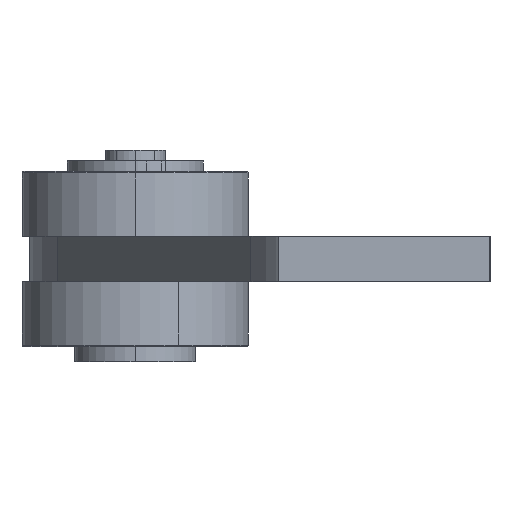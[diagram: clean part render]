
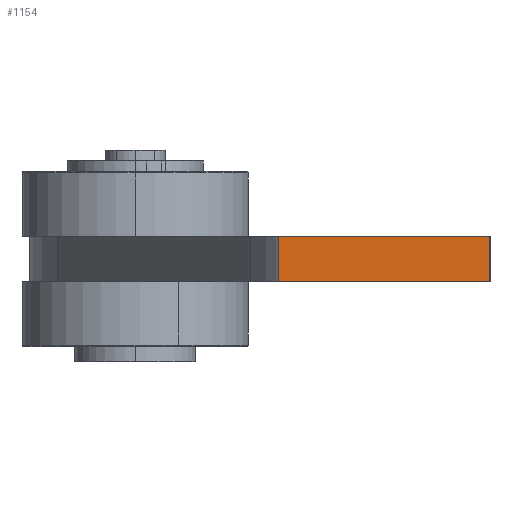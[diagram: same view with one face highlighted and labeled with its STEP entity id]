
A CAD part, left-side view. The second image highlights one B-rep face of the part: STEP entity #1154.
In plain terms, the highlighted planar face has unit normal (-1, 0, 0).
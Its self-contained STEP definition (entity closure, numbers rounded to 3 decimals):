
#20 = ORIENTED_EDGE ( 'NONE', *, *, #517, .T. ) ;
#21 = LINE ( 'NONE', #577, #1216 ) ;
#61 = CARTESIAN_POINT ( 'NONE',  ( -1000., -23.5, 0. ) ) ;
#72 = CARTESIAN_POINT ( 'NONE',  ( -1000., -9.5, -3. ) ) ;
#80 = ORIENTED_EDGE ( 'NONE', *, *, #1138, .F. ) ;
#83 = VERTEX_POINT ( 'NONE', #1601 ) ;
#113 = DIRECTION ( 'NONE',  ( 0., -1., 0. ) ) ;
#143 = VECTOR ( 'NONE', #489, 1000. ) ;
#149 = CARTESIAN_POINT ( 'NONE',  ( -1000., -9.5, 0. ) ) ;
#154 = VERTEX_POINT ( 'NONE', #61 ) ;
#236 = DIRECTION ( 'NONE',  ( 0., 0., 1. ) ) ;
#250 = CARTESIAN_POINT ( 'NONE',  ( -1000., -9.5, -3. ) ) ;
#256 = DIRECTION ( 'NONE',  ( -1., 0., 0. ) ) ;
#307 = ORIENTED_EDGE ( 'NONE', *, *, #1034, .T. ) ;
#350 = EDGE_LOOP ( 'NONE', ( #80, #435, #307, #20 ) ) ;
#351 = VERTEX_POINT ( 'NONE', #149 ) ;
#356 = AXIS2_PLACEMENT_3D ( 'NONE', #250, #256, #236 ) ;
#435 = ORIENTED_EDGE ( 'NONE', *, *, #729, .F. ) ;
#436 = DIRECTION ( 'NONE',  ( 0., 0., 1. ) ) ;
#463 = VECTOR ( 'NONE', #113, 1000. ) ;
#468 = DIRECTION ( 'NONE',  ( 0., 0., 1. ) ) ;
#489 = DIRECTION ( 'NONE',  ( 0., -1., 0. ) ) ;
#517 = EDGE_CURVE ( 'NONE', #83, #154, #21, .T. ) ;
#577 = CARTESIAN_POINT ( 'NONE',  ( -1000., -23.5, -3. ) ) ;
#638 = LINE ( 'NONE', #72, #1567 ) ;
#729 = EDGE_CURVE ( 'NONE', #1538, #351, #638, .T. ) ;
#831 = LINE ( 'NONE', #1370, #463 ) ;
#847 = LINE ( 'NONE', #1394, #143 ) ;
#1034 = EDGE_CURVE ( 'NONE', #1538, #83, #847, .T. ) ;
#1138 = EDGE_CURVE ( 'NONE', #351, #154, #831, .T. ) ;
#1154 = ADVANCED_FACE ( 'NONE', ( #1434 ), #1366, .T. ) ;
#1211 = CARTESIAN_POINT ( 'NONE',  ( -1000., -9.5, -3. ) ) ;
#1216 = VECTOR ( 'NONE', #436, 1000. ) ;
#1366 = PLANE ( 'NONE',  #356 ) ;
#1370 = CARTESIAN_POINT ( 'NONE',  ( -1000., -9.5, 0. ) ) ;
#1394 = CARTESIAN_POINT ( 'NONE',  ( -1000., -9.5, -3. ) ) ;
#1434 = FACE_OUTER_BOUND ( 'NONE', #350, .T. ) ;
#1538 = VERTEX_POINT ( 'NONE', #1211 ) ;
#1567 = VECTOR ( 'NONE', #468, 1000. ) ;
#1601 = CARTESIAN_POINT ( 'NONE',  ( -1000., -23.5, -3. ) ) ;
